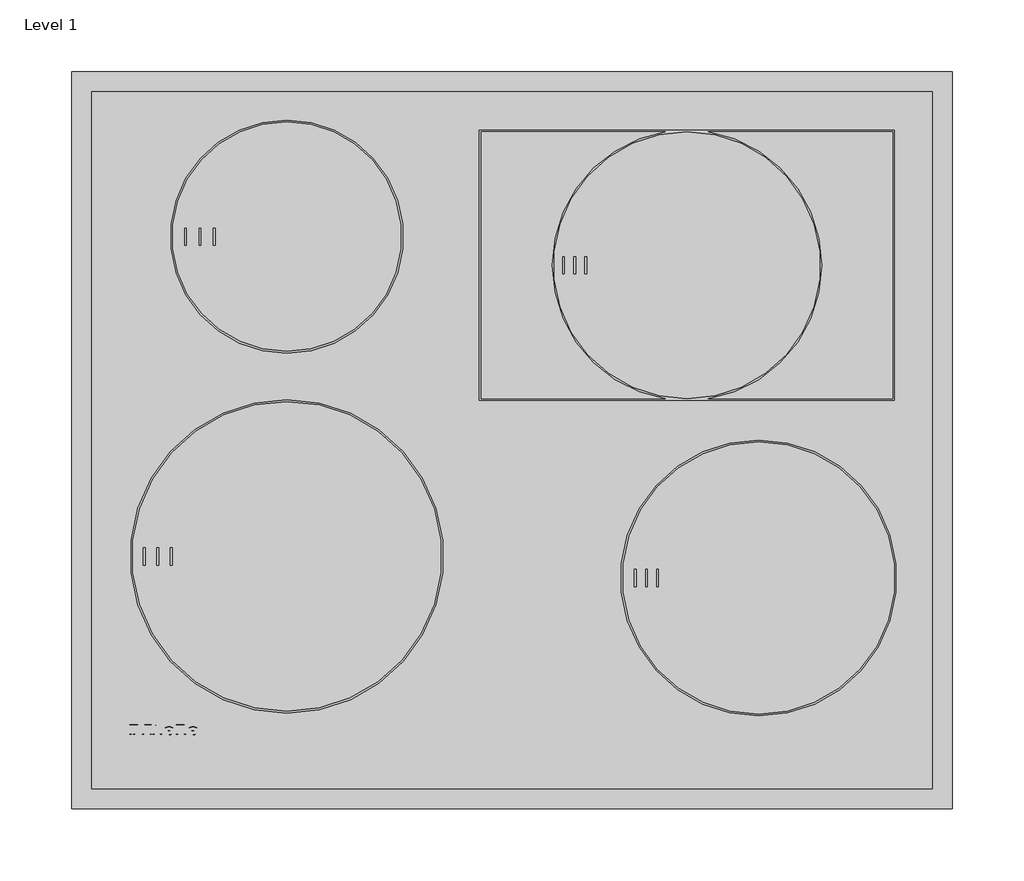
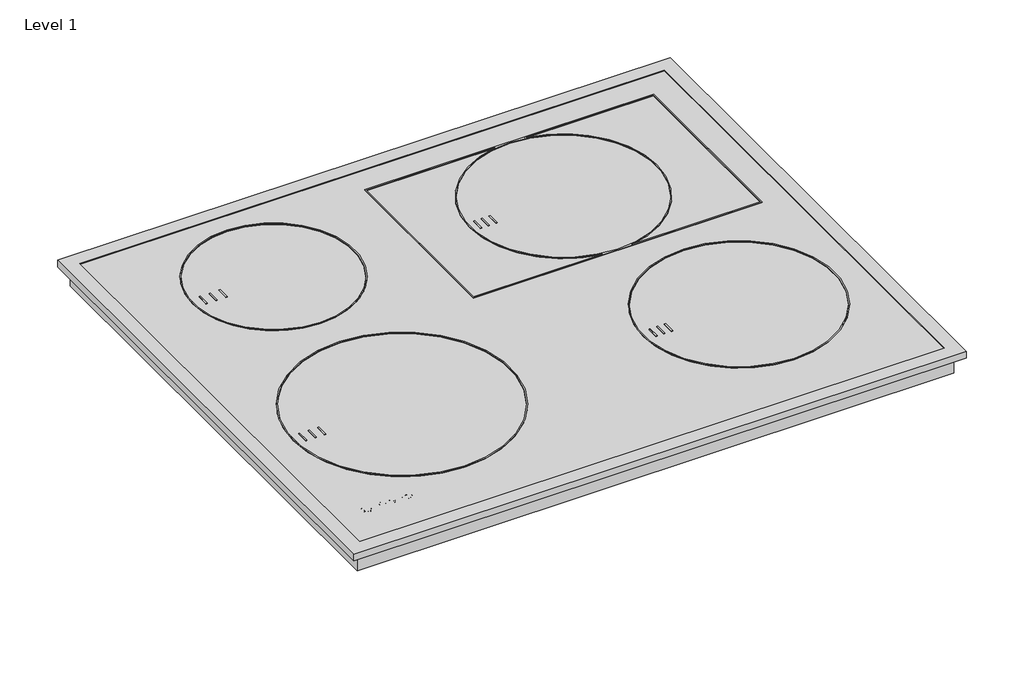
# One storey: 1 proxy.
"""IFC4 building model written with IfcOpenShell, lengths in millimetres."""

from ifc_helpers import new_model, si_unit, origin, place, context, project, spatial, transform, mapped, element, save
from components import specialty_equipment_5991e33c

model = new_model("IFC4")

# Units and contexts
model_context = context("Model", 3, world=origin())
ifc_project = project(units=[si_unit("LENGTHUNIT", "METRE", prefix="MILLI")], contexts=[model_context])

# Site, building, storey
site = spatial("IfcSite", under=ifc_project)
building = spatial("IfcBuilding", under=site)
storey = spatial("IfcBuildingStorey", under=building, Name="Level 1", Elevation=0.0)

# Proxy
placement = place(None, origin())
specialty_equipment_shape = specialty_equipment_5991e33c(model_context)
element("IfcBuildingElementProxy", 1, Name="11206060_RU_KM7262FR : 26726210_RU_11206060_KM7262FR", ObjectType="11206060_RU_KM7262FR : 26726210_RU_11206060_KM7262FR", at=placement, inside=storey, context=model_context, shape_type="MappedRepresentation", body=[
    mapped(specialty_equipment_shape, transform((0.0, 0.0, 0.0), x_axis=(1.0, 0.0, 0.0), y_axis=(0.0, 1.0, 0.0), z_axis=(0.0, 0.0, 1.0))),
])

save(model, "model.ifc")
